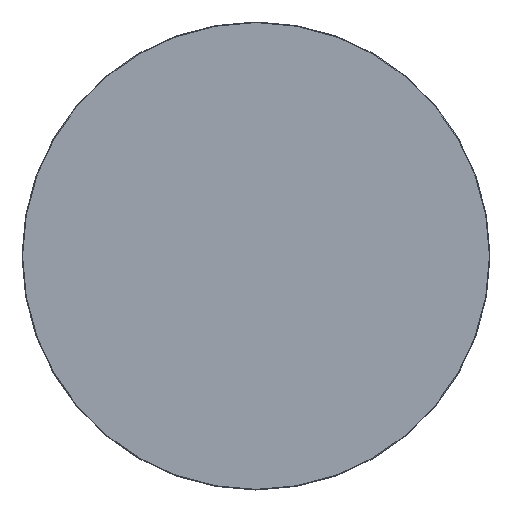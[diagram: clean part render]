
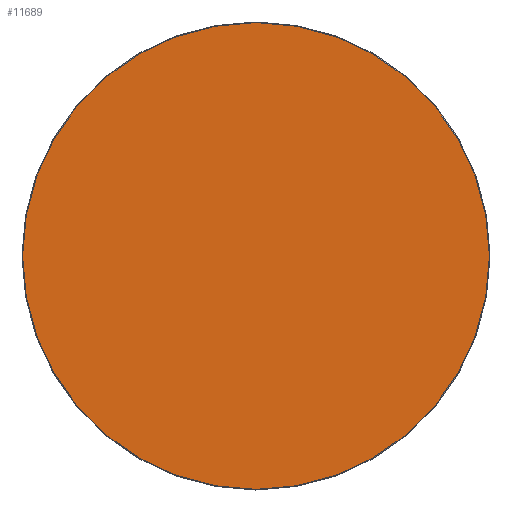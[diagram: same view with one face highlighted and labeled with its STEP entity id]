
A CAD part, top view. The second image highlights one B-rep face of the part: STEP entity #11689.
In plain terms, the highlighted planar face has unit normal (0, 0, 1).
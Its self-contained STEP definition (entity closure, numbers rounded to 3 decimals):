
#11614=CARTESIAN_POINT('',(0.,0.,20.));
#11615=DIRECTION('',(1.,0.,0.));
#11616=DIRECTION('',(0.,0.,1.));
#11617=AXIS2_PLACEMENT_3D('',#11614,#11616,#11615);
#11618=PLANE('',#11617);
#11619=CARTESIAN_POINT('',(-0.5,-548.5,20.));
#11620=VERTEX_POINT('',#11619);
#11621=CARTESIAN_POINT('',(0.5,-548.5,20.));
#11622=VERTEX_POINT('',#11621);
#11623=CARTESIAN_POINT('',(-0.5,-548.5,20.));
#11624=DIRECTION('',(1.,0.,0.));
#11625=VECTOR('',#11624,1.);
#11626=LINE('',#11623,#11625);
#11627=EDGE_CURVE('',#11620,#11622,#11626,.T.);
#11628=ORIENTED_EDGE('E105',*,*,#11627,.T.);
#11629=CARTESIAN_POINT('',(548.5,-0.5,20.));
#11630=VERTEX_POINT('',#11629);
#11631=CARTESIAN_POINT('',(0.5,-0.5,20.));
#11632=DIRECTION('',(0.,-1.,0.));
#11633=DIRECTION('',(0.,-0.,1.));
#11634=AXIS2_PLACEMENT_3D('',#11631,#11633,#11632);
#11635=CIRCLE('',#11634,548.);
#11636=EDGE_CURVE('',#11622,#11630,#11635,.T.);
#11637=ORIENTED_EDGE('E107',*,*,#11636,.T.);
#11638=CARTESIAN_POINT('',(548.5,0.5,20.));
#11639=VERTEX_POINT('',#11638);
#11640=CARTESIAN_POINT('',(548.5,-0.5,20.));
#11641=DIRECTION('',(0.,1.,0.));
#11642=VECTOR('',#11641,1.);
#11643=LINE('',#11640,#11642);
#11644=EDGE_CURVE('',#11630,#11639,#11643,.T.);
#11645=ORIENTED_EDGE('E109',*,*,#11644,.T.);
#11646=CARTESIAN_POINT('',(0.5,548.5,20.));
#11647=VERTEX_POINT('',#11646);
#11648=CARTESIAN_POINT('',(0.5,0.5,20.));
#11649=DIRECTION('',(1.,0.,0.));
#11650=DIRECTION('',(0.,0.,1.));
#11651=AXIS2_PLACEMENT_3D('',#11648,#11650,#11649);
#11652=CIRCLE('',#11651,548.);
#11653=EDGE_CURVE('',#11639,#11647,#11652,.T.);
#11654=ORIENTED_EDGE('E111',*,*,#11653,.T.);
#11655=CARTESIAN_POINT('',(-0.5,548.5,20.));
#11656=VERTEX_POINT('',#11655);
#11657=CARTESIAN_POINT('',(0.5,548.5,20.));
#11658=DIRECTION('',(-1.,0.,0.));
#11659=VECTOR('',#11658,1.);
#11660=LINE('',#11657,#11659);
#11661=EDGE_CURVE('',#11647,#11656,#11660,.T.);
#11662=ORIENTED_EDGE('E113',*,*,#11661,.T.);
#11663=CARTESIAN_POINT('',(-548.5,0.5,20.));
#11664=VERTEX_POINT('',#11663);
#11665=CARTESIAN_POINT('',(-0.5,0.5,20.));
#11666=DIRECTION('',(0.,1.,0.));
#11667=DIRECTION('',(0.,0.,1.));
#11668=AXIS2_PLACEMENT_3D('',#11665,#11667,#11666);
#11669=CIRCLE('',#11668,548.);
#11670=EDGE_CURVE('',#11656,#11664,#11669,.T.);
#11671=ORIENTED_EDGE('E115',*,*,#11670,.T.);
#11672=CARTESIAN_POINT('',(-548.5,-0.5,20.));
#11673=VERTEX_POINT('',#11672);
#11674=CARTESIAN_POINT('',(-548.5,0.5,20.));
#11675=DIRECTION('',(0.,-1.,0.));
#11676=VECTOR('',#11675,1.);
#11677=LINE('',#11674,#11676);
#11678=EDGE_CURVE('',#11664,#11673,#11677,.T.);
#11679=ORIENTED_EDGE('E117',*,*,#11678,.T.);
#11680=CARTESIAN_POINT('',(-0.5,-0.5,20.));
#11681=DIRECTION('',(-1.,0.,0.));
#11682=DIRECTION('',(0.,0.,1.));
#11683=AXIS2_PLACEMENT_3D('',#11680,#11682,#11681);
#11684=CIRCLE('',#11683,548.);
#11685=EDGE_CURVE('',#11673,#11620,#11684,.T.);
#11686=ORIENTED_EDGE('E119',*,*,#11685,.T.);
#11687=EDGE_LOOP('',(#11628,#11637,#11645,#11654,#11662,#11671,#11679,#11686));
#11688=FACE_OUTER_BOUND('',#11687,.T.);
#11689=ADVANCED_FACE('F2',(#11688),#11618,.T.);
